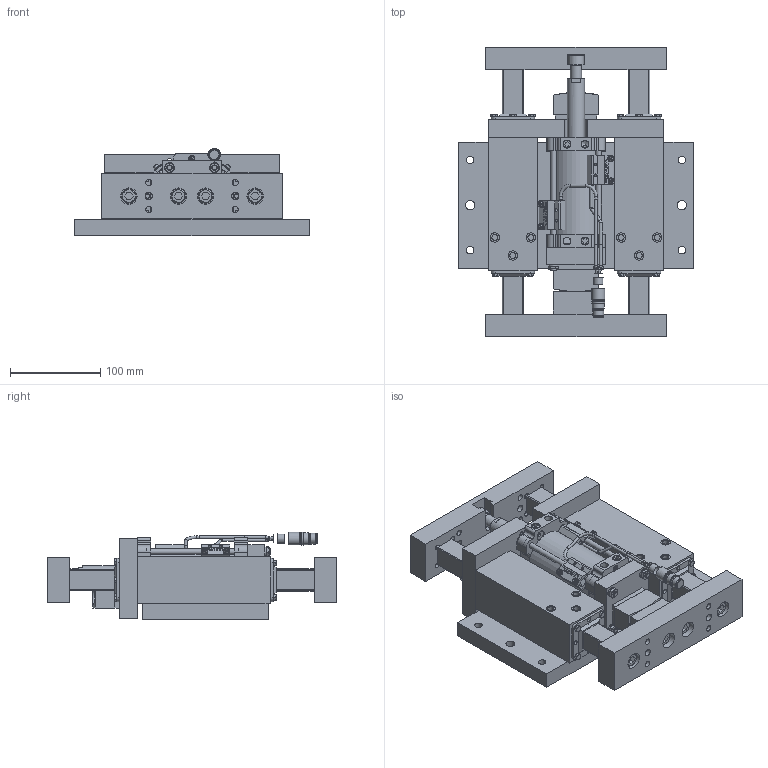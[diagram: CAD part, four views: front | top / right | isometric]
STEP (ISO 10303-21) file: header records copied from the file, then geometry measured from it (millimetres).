
FILE_DESCRIPTION(/* description */ (''),/* implementation_level */ '2;1');
FILE_NAME(/* name */ 'C:\Vault Workspace\CAD\Welker\Shot Pin\DBL24\STANDARD\DB2025B01XL3XXX0000-EXT.stp',/* time_stamp */ '2018-03-26T07:33:25-04:00',/* author */ ('KLabrecque'),/* organization */ (''),/* preprocessor_version */ 'ST-DEVELOPER v17',/* originating_system */ 'Autodesk Inventor 2018',/* authorisation */ '');
FILE_SCHEMA (('AUTOMOTIVE_DESIGN { 1 0 10303 214 3 1 1 }'));
Products named in the file (1): DB2L01_Shrinkwrap_1
Bounding box: 260 x 321 x 97.03 mm (x, y, z)
Volume: 2826396.3 mm3; surface area: 672984.3 mm2
Topology: 127 solids, 127 shells, 2583 faces, 6218 edges, 4099 vertices
Faces by surface type: plane 1416, cylinder 653, cone 452, bspline 44, torus 18
Full cylindrical faces by diameter (mm): 0.5 x1, 1.9 x2, 2.459 x4, 2.5 x1, 2.6 x2, 3 x8, 3.175 x17, 3.2 x6, 3.5 x4, 3.734 x16, 4 x2, 4.166 x16, 4.763 x32, 4.917 x12, 5 x2, 5.359 x8, 5.5 x4, 6 x12, 6.35 x2, 6.5 x32, 6.647 x14, 7 x8, 7.95 x4, 8 x28, 8.334 x12, 8.376 x14, 8.5 x12, 8.7 x12, 9.6 x1, 9.728 x1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
Entity records: 79061 total; most frequent: CARTESIAN_POINT 15090, DIRECTION 12903, ORIENTED_EDGE 12318, EDGE_CURVE 6159, AXIS2_PLACEMENT_3D 4808, VERTEX_POINT 4099, LINE 3287, VECTOR 3287
